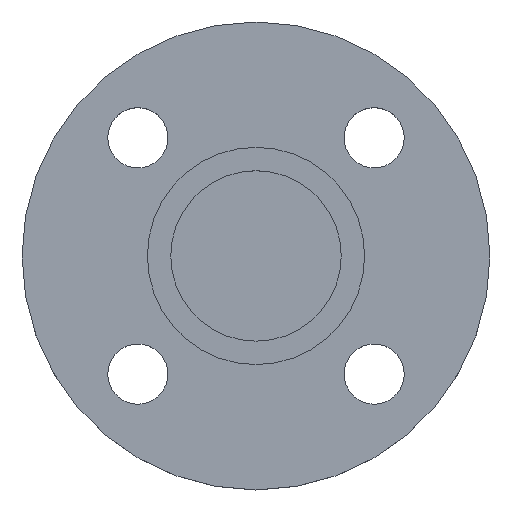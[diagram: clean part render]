
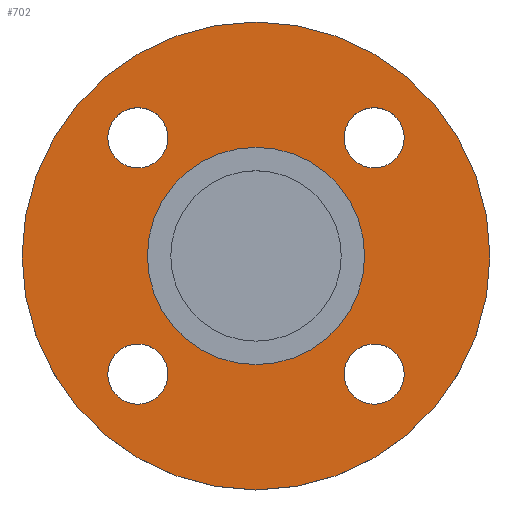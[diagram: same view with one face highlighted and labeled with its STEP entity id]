
A CAD part, top view. The second image highlights one B-rep face of the part: STEP entity #702.
In plain terms, the highlighted planar face has unit normal (0, 0, 1).
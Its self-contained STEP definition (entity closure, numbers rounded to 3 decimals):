
#4 = VERTEX_POINT ( 'NONE', #68 ) ;
#6 = AXIS2_PLACEMENT_3D ( 'NONE', #434, #653, #150 ) ;
#7 = EDGE_LOOP ( 'NONE', ( #520, #598 ) ) ;
#15 = DIRECTION ( 'NONE',  ( 1., 0., 0. ) ) ;
#31 = DIRECTION ( 'NONE',  ( 0., 0., -1. ) ) ;
#32 = FACE_BOUND ( 'NONE', #380, .T. ) ;
#37 = CIRCLE ( 'NONE', #458, 9. ) ;
#43 = AXIS2_PLACEMENT_3D ( 'NONE', #668, #168, #392 ) ;
#49 = DIRECTION ( 'NONE',  ( -1., 0., 0. ) ) ;
#60 = ORIENTED_EDGE ( 'NONE', *, *, #227, .T. ) ;
#68 = CARTESIAN_POINT ( 'NONE',  ( 26.355, -35.355, -4.5 ) ) ;
#75 = DIRECTION ( 'NONE',  ( 0., 0., -1. ) ) ;
#77 = AXIS2_PLACEMENT_3D ( 'NONE', #590, #75, #306 ) ;
#84 = EDGE_LOOP ( 'NONE', ( #283, #572 ) ) ;
#91 = CARTESIAN_POINT ( 'NONE',  ( -44.355, -35.355, -4.5 ) ) ;
#109 = CARTESIAN_POINT ( 'NONE',  ( 44.355, -35.355, -4.5 ) ) ;
#113 = EDGE_CURVE ( 'NONE', #607, #626, #555, .T. ) ;
#118 = DIRECTION ( 'NONE',  ( -1., 0., 0. ) ) ;
#136 = CARTESIAN_POINT ( 'NONE',  ( -35.355, 35.355, -4.5 ) ) ;
#140 = VERTEX_POINT ( 'NONE', #109 ) ;
#143 = EDGE_LOOP ( 'NONE', ( #60, #311 ) ) ;
#145 = CIRCLE ( 'NONE', #240, 9. ) ;
#150 = DIRECTION ( 'NONE',  ( 1., 0., 0. ) ) ;
#156 = DIRECTION ( 'NONE',  ( 1., 0., 0. ) ) ;
#165 = EDGE_CURVE ( 'NONE', #172, #461, #261, .T. ) ;
#166 = ORIENTED_EDGE ( 'NONE', *, *, #113, .T. ) ;
#168 = DIRECTION ( 'NONE',  ( 0., 0., -1. ) ) ;
#172 = VERTEX_POINT ( 'NONE', #490 ) ;
#178 = CARTESIAN_POINT ( 'NONE',  ( -32.5, 0., -4.5 ) ) ;
#180 = VERTEX_POINT ( 'NONE', #206 ) ;
#190 = DIRECTION ( 'NONE',  ( 1., 0., 0. ) ) ;
#191 = DIRECTION ( 'NONE',  ( 0., 0., -1. ) ) ;
#196 = CARTESIAN_POINT ( 'NONE',  ( -26.355, 35.355, -4.5 ) ) ;
#198 = DIRECTION ( 'NONE',  ( 0., 0., -1. ) ) ;
#204 = CARTESIAN_POINT ( 'NONE',  ( -26.355, -35.355, -4.5 ) ) ;
#206 = CARTESIAN_POINT ( 'NONE',  ( 44.355, 35.355, -4.5 ) ) ;
#207 = PLANE ( 'NONE',  #6 ) ;
#208 = CIRCLE ( 'NONE', #616, 9. ) ;
#214 = AXIS2_PLACEMENT_3D ( 'NONE', #440, #659, #156 ) ;
#221 = CARTESIAN_POINT ( 'NONE',  ( 26.355, 35.355, -4.5 ) ) ;
#226 = DIRECTION ( 'NONE',  ( 1., 0., 0. ) ) ;
#227 = EDGE_CURVE ( 'NONE', #140, #4, #633, .T. ) ;
#233 = EDGE_CURVE ( 'NONE', #4, #140, #726, .T. ) ;
#239 = AXIS2_PLACEMENT_3D ( 'NONE', #136, #362, #593 ) ;
#240 = AXIS2_PLACEMENT_3D ( 'NONE', #507, #725, #226 ) ;
#261 = CIRCLE ( 'NONE', #669, 32.5 ) ;
#263 = DIRECTION ( 'NONE',  ( -1., 0., 0. ) ) ;
#264 = FACE_BOUND ( 'NONE', #7, .T. ) ;
#283 = ORIENTED_EDGE ( 'NONE', *, *, #407, .T. ) ;
#296 = AXIS2_PLACEMENT_3D ( 'NONE', #401, #620, #118 ) ;
#298 = CARTESIAN_POINT ( 'NONE',  ( 35.355, -35.355, -4.5 ) ) ;
#306 = DIRECTION ( 'NONE',  ( -1., 0., 0. ) ) ;
#310 = EDGE_CURVE ( 'NONE', #461, #172, #657, .T. ) ;
#311 = ORIENTED_EDGE ( 'NONE', *, *, #233, .T. ) ;
#320 = FACE_BOUND ( 'NONE', #143, .T. ) ;
#321 = AXIS2_PLACEMENT_3D ( 'NONE', #298, #525, #15 ) ;
#323 = VERTEX_POINT ( 'NONE', #221 ) ;
#331 = CARTESIAN_POINT ( 'NONE',  ( 0., 0., -4.5 ) ) ;
#343 = AXIS2_PLACEMENT_3D ( 'NONE', #331, #563, #49 ) ;
#362 = DIRECTION ( 'NONE',  ( 0., 0., -1. ) ) ;
#368 = CIRCLE ( 'NONE', #43, 9. ) ;
#371 = EDGE_CURVE ( 'NONE', #323, #180, #538, .T. ) ;
#380 = EDGE_LOOP ( 'NONE', ( #589, #166 ) ) ;
#384 = ORIENTED_EDGE ( 'NONE', *, *, #310, .T. ) ;
#392 = DIRECTION ( 'NONE',  ( 1., 0., 0. ) ) ;
#398 = CIRCLE ( 'NONE', #77, 70. ) ;
#401 = CARTESIAN_POINT ( 'NONE',  ( 0., 0., -4.5 ) ) ;
#403 = VERTEX_POINT ( 'NONE', #446 ) ;
#407 = EDGE_CURVE ( 'NONE', #677, #681, #368, .T. ) ;
#416 = DIRECTION ( 'NONE',  ( 1., 0., 0. ) ) ;
#417 = AXIS2_PLACEMENT_3D ( 'NONE', #470, #692, #190 ) ;
#424 = EDGE_CURVE ( 'NONE', #180, #323, #145, .T. ) ;
#434 = CARTESIAN_POINT ( 'NONE',  ( 32.5, 0., -4.5 ) ) ;
#440 = CARTESIAN_POINT ( 'NONE',  ( 35.355, 35.355, -4.5 ) ) ;
#446 = CARTESIAN_POINT ( 'NONE',  ( -70., 0., -4.5 ) ) ;
#458 = AXIS2_PLACEMENT_3D ( 'NONE', #700, #198, #597 ) ;
#461 = VERTEX_POINT ( 'NONE', #178 ) ;
#467 = EDGE_CURVE ( 'NONE', #403, #643, #610, .T. ) ;
#470 = CARTESIAN_POINT ( 'NONE',  ( 35.355, -35.355, -4.5 ) ) ;
#478 = CARTESIAN_POINT ( 'NONE',  ( -44.355, 35.355, -4.5 ) ) ;
#481 = CARTESIAN_POINT ( 'NONE',  ( 70., 0., -4.5 ) ) ;
#490 = CARTESIAN_POINT ( 'NONE',  ( 32.5, 0., -4.5 ) ) ;
#491 = FACE_BOUND ( 'NONE', #682, .T. ) ;
#507 = CARTESIAN_POINT ( 'NONE',  ( 35.355, 35.355, -4.5 ) ) ;
#518 = ORIENTED_EDGE ( 'NONE', *, *, #165, .T. ) ;
#520 = ORIENTED_EDGE ( 'NONE', *, *, #424, .T. ) ;
#525 = DIRECTION ( 'NONE',  ( 0., 0., -1. ) ) ;
#538 = CIRCLE ( 'NONE', #214, 9. ) ;
#545 = CARTESIAN_POINT ( 'NONE',  ( 0., 0., -4.5 ) ) ;
#546 = FACE_BOUND ( 'NONE', #84, .T. ) ;
#555 = CIRCLE ( 'NONE', #239, 9. ) ;
#560 = EDGE_CURVE ( 'NONE', #681, #677, #208, .T. ) ;
#563 = DIRECTION ( 'NONE',  ( 0., 0., -1. ) ) ;
#572 = ORIENTED_EDGE ( 'NONE', *, *, #560, .T. ) ;
#584 = EDGE_CURVE ( 'NONE', #643, #403, #398, .T. ) ;
#589 = ORIENTED_EDGE ( 'NONE', *, *, #651, .T. ) ;
#590 = CARTESIAN_POINT ( 'NONE',  ( 0., 0., -4.5 ) ) ;
#593 = DIRECTION ( 'NONE',  ( 1., 0., 0. ) ) ;
#596 = ORIENTED_EDGE ( 'NONE', *, *, #584, .F. ) ;
#597 = DIRECTION ( 'NONE',  ( 1., 0., 0. ) ) ;
#598 = ORIENTED_EDGE ( 'NONE', *, *, #371, .T. ) ;
#602 = ORIENTED_EDGE ( 'NONE', *, *, #467, .F. ) ;
#607 = VERTEX_POINT ( 'NONE', #478 ) ;
#610 = CIRCLE ( 'NONE', #296, 70. ) ;
#616 = AXIS2_PLACEMENT_3D ( 'NONE', #693, #191, #416 ) ;
#620 = DIRECTION ( 'NONE',  ( 0., 0., -1. ) ) ;
#626 = VERTEX_POINT ( 'NONE', #196 ) ;
#633 = CIRCLE ( 'NONE', #321, 9. ) ;
#643 = VERTEX_POINT ( 'NONE', #481 ) ;
#651 = EDGE_CURVE ( 'NONE', #626, #607, #37, .T. ) ;
#653 = DIRECTION ( 'NONE',  ( 0., 0., 1. ) ) ;
#657 = CIRCLE ( 'NONE', #343, 32.5 ) ;
#659 = DIRECTION ( 'NONE',  ( 0., 0., -1. ) ) ;
#668 = CARTESIAN_POINT ( 'NONE',  ( -35.355, -35.355, -4.5 ) ) ;
#669 = AXIS2_PLACEMENT_3D ( 'NONE', #545, #31, #263 ) ;
#677 = VERTEX_POINT ( 'NONE', #204 ) ;
#681 = VERTEX_POINT ( 'NONE', #91 ) ;
#682 = EDGE_LOOP ( 'NONE', ( #384, #518 ) ) ;
#692 = DIRECTION ( 'NONE',  ( 0., 0., -1. ) ) ;
#693 = CARTESIAN_POINT ( 'NONE',  ( -35.355, -35.355, -4.5 ) ) ;
#700 = CARTESIAN_POINT ( 'NONE',  ( -35.355, 35.355, -4.5 ) ) ;
#702 = ADVANCED_FACE ( 'NONE', ( #320, #546, #32, #264, #491, #709 ), #207, .T. ) ;
#703 = EDGE_LOOP ( 'NONE', ( #596, #602 ) ) ;
#709 = FACE_OUTER_BOUND ( 'NONE', #703, .T. ) ;
#725 = DIRECTION ( 'NONE',  ( 0., 0., -1. ) ) ;
#726 = CIRCLE ( 'NONE', #417, 9. ) ;
